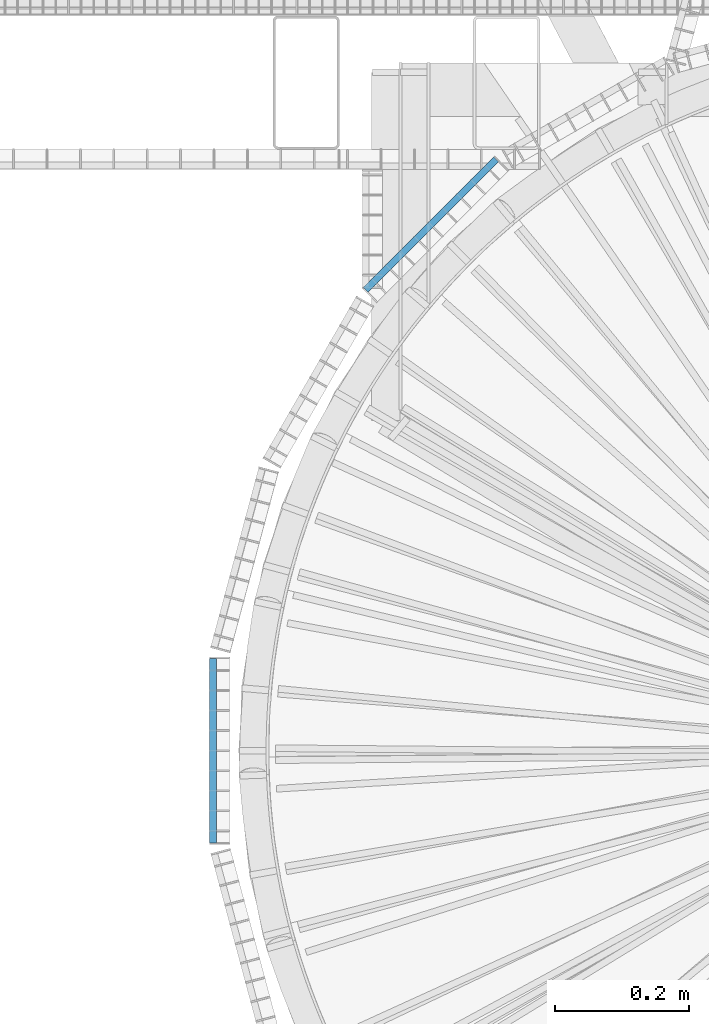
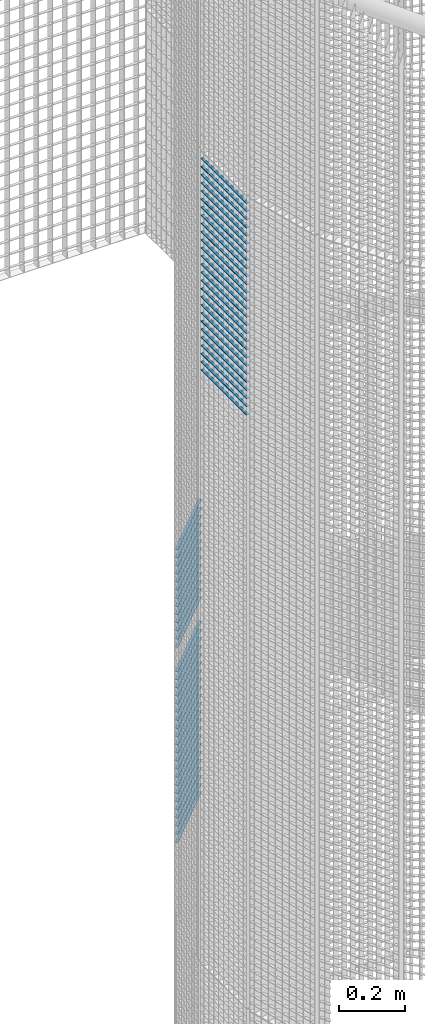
# One storey, part 204 of 1148: 62 beams, 2 elements without a shape of their own.
"""IFC2X3 building model written with IfcOpenShell, lengths in millimetres."""

from ifc_helpers import new_model, si_unit, frame, origin_with_axes, origin_2d_with_axis, place, context, subcontext, project, spatial, rectangle, extrude, material, type_object, element, aggregate, save


model = new_model("IFC2X3")

# Units and contexts
model_context = context("Model", 3, precision=1e-05, world=origin_with_axes())
body_context = subcontext(model_context, "Body", "Model", "MODEL_VIEW")
ifc_project = project(units=[si_unit("LENGTHUNIT", "METRE", prefix="MILLI"), si_unit("AREAUNIT", "SQUARE_METRE"), si_unit("VOLUMEUNIT", "CUBIC_METRE"), si_unit("MASSUNIT", "GRAM", prefix="KILO"), si_unit("TIMEUNIT", "SECOND"), si_unit("PLANEANGLEUNIT", "RADIAN"), si_unit("SOLIDANGLEUNIT", "STERADIAN"), si_unit("THERMODYNAMICTEMPERATUREUNIT", "DEGREE_CELSIUS"), si_unit("LUMINOUSINTENSITYUNIT", "LUMEN")], contexts=[model_context])

# Site, building, storey
site_placement = place(None, origin_with_axes())
site = spatial("IfcSite", under=ifc_project, at=site_placement, Name="Undefined", CompositionType="ELEMENT")
building_placement = place(site_placement, origin_with_axes())
building = spatial("IfcBuilding", under=site, at=building_placement, Name="Undefined", CompositionType="ELEMENT")
storey_placement = place(building_placement, origin_with_axes())
storey = spatial("IfcBuildingStorey", under=building, at=storey_placement, Name="Undefined", CompositionType="ELEMENT", Elevation=0.0)

# Assembly, beams
assembly_1_placement = place(storey_placement, origin_with_axes())
assembly_1 = element("IfcElementAssembly", 1, at=assembly_1_placement, inside=storey, Name="BORDURE", AssemblyPlace="NOTDEFINED", PredefinedType="NOTDEFINED")
ifc_material = material(Name="STEEL/S235JR")
beam_type = type_object("IfcBeamType", Name="PL2*10", PredefinedType="NOTDEFINED")
beam_1_placement = place(assembly_1_placement, frame((-689.771348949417, 884.927168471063, 3750.0), z_axis=(-0.707106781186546, 0.707106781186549, 0.0), x_axis=(-0.70710678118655, -0.707106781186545, 0.0)))
beam_1 = element("IfcBeam", 2, at=beam_1_placement, type_object=beam_type, material=ifc_material, Name="ENTRETOISE", context=body_context, shape_type="SweptSolid", body=[
    extrude(rectangle(XDim=2.0, YDim=10.0, at=origin_2d_with_axis()), frame((275.999999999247, 9.09494701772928e-13, 1.53210777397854e-14), z_axis=(-1.0, 0.0, 0.0), x_axis=(0.0, -1.0, 0.0)), (0.0, 0.0, 1.0), 276.0),
])
beam_2_placement = place(assembly_1_placement, frame((-689.771348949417, 884.927168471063, 3660.0), z_axis=(-0.707106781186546, 0.707106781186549, 0.0), x_axis=(-0.70710678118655, -0.707106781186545, 0.0)))
beam_2 = element("IfcBeam", 3, at=beam_2_placement, type_object=beam_type, material=ifc_material, Name="ENTRETOISE", context=body_context, shape_type="SweptSolid", body=[
    extrude(rectangle(XDim=2.0, YDim=10.0, at=origin_2d_with_axis()), frame((275.999999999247, 9.09494701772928e-13, 1.53210777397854e-14), z_axis=(-1.0, 0.0, 0.0), x_axis=(0.0, -1.0, 0.0)), (0.0, 0.0, 1.0), 276.0),
])
beam_3_placement = place(assembly_1_placement, frame((-689.771348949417, 884.927168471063, 3630.0), z_axis=(-0.707106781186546, 0.707106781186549, 0.0), x_axis=(-0.70710678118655, -0.707106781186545, 0.0)))
beam_3 = element("IfcBeam", 4, at=beam_3_placement, type_object=beam_type, material=ifc_material, Name="ENTRETOISE", context=body_context, shape_type="SweptSolid", body=[
    extrude(rectangle(XDim=2.0, YDim=10.0, at=origin_2d_with_axis()), frame((275.999999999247, 9.09494701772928e-13, 1.53210777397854e-14), z_axis=(-1.0, 0.0, 0.0), x_axis=(0.0, -1.0, 0.0)), (0.0, 0.0, 1.0), 276.0),
])
beam_4_placement = place(assembly_1_placement, frame((-689.771348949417, 884.927168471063, 3780.0), z_axis=(-0.707106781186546, 0.707106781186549, 0.0), x_axis=(-0.70710678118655, -0.707106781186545, 0.0)))
beam_4 = element("IfcBeam", 5, at=beam_4_placement, type_object=beam_type, material=ifc_material, Name="ENTRETOISE", context=body_context, shape_type="SweptSolid", body=[
    extrude(rectangle(XDim=2.0, YDim=10.0, at=origin_2d_with_axis()), frame((275.999999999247, 9.09494701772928e-13, 1.53210777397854e-14), z_axis=(-1.0, 0.0, 0.0), x_axis=(0.0, -1.0, 0.0)), (0.0, 0.0, 1.0), 276.0),
])
beam_5_placement = place(assembly_1_placement, frame((-689.771348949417, 884.927168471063, 3600.0), z_axis=(-0.707106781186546, 0.707106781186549, 0.0), x_axis=(-0.70710678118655, -0.707106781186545, 0.0)))
beam_5 = element("IfcBeam", 6, at=beam_5_placement, type_object=beam_type, material=ifc_material, Name="ENTRETOISE", context=body_context, shape_type="SweptSolid", body=[
    extrude(rectangle(XDim=2.0, YDim=10.0, at=origin_2d_with_axis()), frame((275.999999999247, 9.09494701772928e-13, 1.53210777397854e-14), z_axis=(-1.0, 0.0, 0.0), x_axis=(0.0, -1.0, 0.0)), (0.0, 0.0, 1.0), 276.0),
])
beam_6_placement = place(assembly_1_placement, frame((-689.771348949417, 884.927168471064, 3810.0), z_axis=(-0.707106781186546, 0.707106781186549, 0.0), x_axis=(-0.70710678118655, -0.707106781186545, 0.0)))
beam_6 = element("IfcBeam", 7, at=beam_6_placement, type_object=beam_type, material=ifc_material, Name="ENTRETOISE", context=body_context, shape_type="SweptSolid", body=[
    extrude(rectangle(XDim=2.0, YDim=10.0, at=origin_2d_with_axis()), frame((275.999999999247, 9.09494701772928e-13, 1.53210777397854e-14), z_axis=(-1.0, 0.0, 0.0), x_axis=(0.0, -1.0, 0.0)), (0.0, 0.0, 1.0), 276.0),
])
beam_7_placement = place(assembly_1_placement, frame((-689.771348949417, 884.927168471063, 3570.0), z_axis=(-0.707106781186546, 0.707106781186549, 0.0), x_axis=(-0.70710678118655, -0.707106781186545, 0.0)))
beam_7 = element("IfcBeam", 8, at=beam_7_placement, type_object=beam_type, material=ifc_material, Name="ENTRETOISE", context=body_context, shape_type="SweptSolid", body=[
    extrude(rectangle(XDim=2.0, YDim=10.0, at=origin_2d_with_axis()), frame((275.999999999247, 9.09494701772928e-13, 1.53210777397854e-14), z_axis=(-1.0, 0.0, 0.0), x_axis=(0.0, -1.0, 0.0)), (0.0, 0.0, 1.0), 276.0),
])
beam_8_placement = place(assembly_1_placement, frame((-689.771348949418, 884.927168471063, 3540.0), z_axis=(-0.707106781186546, 0.707106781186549, 0.0), x_axis=(-0.70710678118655, -0.707106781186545, 0.0)))
beam_8 = element("IfcBeam", 9, at=beam_8_placement, type_object=beam_type, material=ifc_material, Name="ENTRETOISE", context=body_context, shape_type="SweptSolid", body=[
    extrude(rectangle(XDim=2.0, YDim=10.0, at=origin_2d_with_axis()), frame((275.999999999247, 9.09494701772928e-13, 1.53210777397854e-14), z_axis=(-1.0, 0.0, 0.0), x_axis=(0.0, -1.0, 0.0)), (0.0, 0.0, 1.0), 276.0),
])
beam_9_placement = place(assembly_1_placement, frame((-689.771348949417, 884.927168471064, 3840.0), z_axis=(-0.707106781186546, 0.707106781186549, 0.0), x_axis=(-0.70710678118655, -0.707106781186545, 0.0)))
beam_9 = element("IfcBeam", 10, at=beam_9_placement, type_object=beam_type, material=ifc_material, Name="ENTRETOISE", context=body_context, shape_type="SweptSolid", body=[
    extrude(rectangle(XDim=2.0, YDim=10.0, at=origin_2d_with_axis()), frame((275.999999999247, 9.09494701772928e-13, 1.53210777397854e-14), z_axis=(-1.0, 0.0, 0.0), x_axis=(0.0, -1.0, 0.0)), (0.0, 0.0, 1.0), 276.0),
])
beam_10_placement = place(assembly_1_placement, frame((-689.771348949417, 884.927168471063, 3510.0), z_axis=(-0.707106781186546, 0.707106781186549, 0.0), x_axis=(-0.70710678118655, -0.707106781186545, 0.0)))
beam_10 = element("IfcBeam", 11, at=beam_10_placement, type_object=beam_type, material=ifc_material, Name="ENTRETOISE", context=body_context, shape_type="SweptSolid", body=[
    extrude(rectangle(XDim=2.0, YDim=10.0, at=origin_2d_with_axis()), frame((275.999999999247, 9.09494701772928e-13, 1.53210777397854e-14), z_axis=(-1.0, 0.0, 0.0), x_axis=(0.0, -1.0, 0.0)), (0.0, 0.0, 1.0), 276.0),
])
beam_11_placement = place(assembly_1_placement, frame((-689.771348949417, 884.927168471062, 3480.0), z_axis=(-0.707106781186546, 0.707106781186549, 0.0), x_axis=(-0.70710678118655, -0.707106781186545, 0.0)))
beam_11 = element("IfcBeam", 12, at=beam_11_placement, type_object=beam_type, material=ifc_material, Name="ENTRETOISE", context=body_context, shape_type="SweptSolid", body=[
    extrude(rectangle(XDim=2.0, YDim=10.0, at=origin_2d_with_axis()), frame((275.999999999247, 9.09494701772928e-13, 1.53210777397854e-14), z_axis=(-1.0, 0.0, 0.0), x_axis=(0.0, -1.0, 0.0)), (0.0, 0.0, 1.0), 276.0),
])
beam_12_placement = place(assembly_1_placement, frame((-689.771348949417, 884.927168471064, 3870.0), z_axis=(-0.707106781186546, 0.707106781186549, 0.0), x_axis=(-0.70710678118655, -0.707106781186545, 0.0)))
beam_12 = element("IfcBeam", 13, at=beam_12_placement, type_object=beam_type, material=ifc_material, Name="ENTRETOISE", context=body_context, shape_type="SweptSolid", body=[
    extrude(rectangle(XDim=2.0, YDim=10.0, at=origin_2d_with_axis()), frame((275.999999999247, 9.09494701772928e-13, 1.53210777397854e-14), z_axis=(-1.0, 0.0, 0.0), x_axis=(0.0, -1.0, 0.0)), (0.0, 0.0, 1.0), 276.0),
])
beam_13_placement = place(assembly_1_placement, frame((-689.771348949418, 884.927168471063, 3450.0), z_axis=(-0.707106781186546, 0.707106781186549, 0.0), x_axis=(-0.70710678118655, -0.707106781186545, 0.0)))
beam_13 = element("IfcBeam", 14, at=beam_13_placement, type_object=beam_type, material=ifc_material, Name="ENTRETOISE", context=body_context, shape_type="SweptSolid", body=[
    extrude(rectangle(XDim=2.0, YDim=10.0, at=origin_2d_with_axis()), frame((275.999999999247, 9.09494701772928e-13, 1.53210777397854e-14), z_axis=(-1.0, 0.0, 0.0), x_axis=(0.0, -1.0, 0.0)), (0.0, 0.0, 1.0), 276.0),
])
beam_14_placement = place(assembly_1_placement, frame((-689.771348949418, 884.927168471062, 3420.0), z_axis=(-0.707106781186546, 0.707106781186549, 0.0), x_axis=(-0.70710678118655, -0.707106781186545, 0.0)))
beam_14 = element("IfcBeam", 15, at=beam_14_placement, type_object=beam_type, material=ifc_material, Name="ENTRETOISE", context=body_context, shape_type="SweptSolid", body=[
    extrude(rectangle(XDim=2.0, YDim=10.0, at=origin_2d_with_axis()), frame((275.999999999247, 9.09494701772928e-13, 1.53210777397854e-14), z_axis=(-1.0, 0.0, 0.0), x_axis=(0.0, -1.0, 0.0)), (0.0, 0.0, 1.0), 276.0),
])
beam_15_placement = place(assembly_1_placement, frame((-689.771348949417, 884.927168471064, 3900.0), z_axis=(-0.707106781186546, 0.707106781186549, 0.0), x_axis=(-0.70710678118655, -0.707106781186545, 0.0)))
beam_15 = element("IfcBeam", 16, at=beam_15_placement, type_object=beam_type, material=ifc_material, Name="ENTRETOISE", context=body_context, shape_type="SweptSolid", body=[
    extrude(rectangle(XDim=2.0, YDim=10.0, at=origin_2d_with_axis()), frame((275.999999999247, 9.09494701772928e-13, 1.53210777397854e-14), z_axis=(-1.0, 0.0, 0.0), x_axis=(0.0, -1.0, 0.0)), (0.0, 0.0, 1.0), 276.0),
])
beam_16_placement = place(assembly_1_placement, frame((-689.771348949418, 884.927168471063, 3390.0), z_axis=(-0.707106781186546, 0.707106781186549, 0.0), x_axis=(-0.70710678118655, -0.707106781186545, 0.0)))
beam_16 = element("IfcBeam", 17, at=beam_16_placement, type_object=beam_type, material=ifc_material, Name="ENTRETOISE", context=body_context, shape_type="SweptSolid", body=[
    extrude(rectangle(XDim=2.0, YDim=10.0, at=origin_2d_with_axis()), frame((275.999999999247, 9.09494701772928e-13, 1.53210777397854e-14), z_axis=(-1.0, 0.0, 0.0), x_axis=(0.0, -1.0, 0.0)), (0.0, 0.0, 1.0), 276.0),
])
beam_17_placement = place(assembly_1_placement, frame((-689.771348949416, 884.927168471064, 3930.0), z_axis=(-0.707106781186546, 0.707106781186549, 0.0), x_axis=(-0.70710678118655, -0.707106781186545, 0.0)))
beam_17 = element("IfcBeam", 18, at=beam_17_placement, type_object=beam_type, material=ifc_material, Name="ENTRETOISE", context=body_context, shape_type="SweptSolid", body=[
    extrude(rectangle(XDim=2.0, YDim=10.0, at=origin_2d_with_axis()), frame((275.999999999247, 9.09494701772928e-13, 1.53210777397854e-14), z_axis=(-1.0, 0.0, 0.0), x_axis=(0.0, -1.0, 0.0)), (0.0, 0.0, 1.0), 276.0),
])
beam_18_placement = place(assembly_1_placement, frame((-689.771348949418, 884.927168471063, 3360.0), z_axis=(-0.707106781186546, 0.707106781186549, 0.0), x_axis=(-0.70710678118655, -0.707106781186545, 0.0)))
beam_18 = element("IfcBeam", 19, at=beam_18_placement, type_object=beam_type, material=ifc_material, Name="ENTRETOISE", context=body_context, shape_type="SweptSolid", body=[
    extrude(rectangle(XDim=2.0, YDim=10.0, at=origin_2d_with_axis()), frame((275.999999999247, 9.09494701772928e-13, 1.53210777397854e-14), z_axis=(-1.0, 0.0, 0.0), x_axis=(0.0, -1.0, 0.0)), (0.0, 0.0, 1.0), 276.0),
])
beam_19_placement = place(assembly_1_placement, frame((-689.771348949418, 884.927168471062, 3330.0), z_axis=(-0.707106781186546, 0.707106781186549, 0.0), x_axis=(-0.70710678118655, -0.707106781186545, 0.0)))
beam_19 = element("IfcBeam", 20, at=beam_19_placement, type_object=beam_type, material=ifc_material, Name="ENTRETOISE", context=body_context, shape_type="SweptSolid", body=[
    extrude(rectangle(XDim=2.0, YDim=10.0, at=origin_2d_with_axis()), frame((275.999999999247, 9.09494701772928e-13, 1.53210777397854e-14), z_axis=(-1.0, 0.0, 0.0), x_axis=(0.0, -1.0, 0.0)), (0.0, 0.0, 1.0), 276.0),
])
beam_20_placement = place(assembly_1_placement, frame((-689.771348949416, 884.927168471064, 3960.0), z_axis=(-0.707106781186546, 0.707106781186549, 0.0), x_axis=(-0.70710678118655, -0.707106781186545, 0.0)))
beam_20 = element("IfcBeam", 21, at=beam_20_placement, type_object=beam_type, material=ifc_material, Name="ENTRETOISE", context=body_context, shape_type="SweptSolid", body=[
    extrude(rectangle(XDim=2.0, YDim=10.0, at=origin_2d_with_axis()), frame((275.999999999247, 9.09494701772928e-13, 1.53210777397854e-14), z_axis=(-1.0, 0.0, 0.0), x_axis=(0.0, -1.0, 0.0)), (0.0, 0.0, 1.0), 276.0),
])
beam_21_placement = place(assembly_1_placement, frame((-689.771348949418, 884.927168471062, 3300.0), z_axis=(-0.707106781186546, 0.707106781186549, 0.0), x_axis=(-0.70710678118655, -0.707106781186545, 0.0)))
beam_21 = element("IfcBeam", 22, at=beam_21_placement, type_object=beam_type, material=ifc_material, Name="ENTRETOISE", context=body_context, shape_type="SweptSolid", body=[
    extrude(rectangle(XDim=2.0, YDim=10.0, at=origin_2d_with_axis()), frame((275.999999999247, 9.09494701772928e-13, 1.53210777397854e-14), z_axis=(-1.0, 0.0, 0.0), x_axis=(0.0, -1.0, 0.0)), (0.0, 0.0, 1.0), 276.0),
])
beam_22_placement = place(assembly_1_placement, frame((-689.771348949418, 884.927168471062, 3270.0), z_axis=(-0.707106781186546, 0.707106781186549, 0.0), x_axis=(-0.70710678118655, -0.707106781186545, 0.0)))
beam_22 = element("IfcBeam", 23, at=beam_22_placement, type_object=beam_type, material=ifc_material, Name="ENTRETOISE", context=body_context, shape_type="SweptSolid", body=[
    extrude(rectangle(XDim=2.0, YDim=10.0, at=origin_2d_with_axis()), frame((275.999999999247, 9.09494701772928e-13, 1.53210777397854e-14), z_axis=(-1.0, 0.0, 0.0), x_axis=(0.0, -1.0, 0.0)), (0.0, 0.0, 1.0), 276.0),
])
beam_23_placement = place(assembly_1_placement, frame((-689.771348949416, 884.927168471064, 3990.0), z_axis=(-0.707106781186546, 0.707106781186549, 0.0), x_axis=(-0.70710678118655, -0.707106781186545, 0.0)))
beam_23 = element("IfcBeam", 24, at=beam_23_placement, type_object=beam_type, material=ifc_material, Name="ENTRETOISE", context=body_context, shape_type="SweptSolid", body=[
    extrude(rectangle(XDim=2.0, YDim=10.0, at=origin_2d_with_axis()), frame((275.999999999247, 9.09494701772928e-13, 1.53210777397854e-14), z_axis=(-1.0, 0.0, 0.0), x_axis=(0.0, -1.0, 0.0)), (0.0, 0.0, 1.0), 276.0),
])
beam_24_placement = place(assembly_1_placement, frame((-689.771348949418, 884.927168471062, 3240.0), z_axis=(-0.707106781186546, 0.707106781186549, 0.0), x_axis=(-0.70710678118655, -0.707106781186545, 0.0)))
beam_24 = element("IfcBeam", 25, at=beam_24_placement, type_object=beam_type, material=ifc_material, Name="ENTRETOISE", context=body_context, shape_type="SweptSolid", body=[
    extrude(rectangle(XDim=2.0, YDim=10.0, at=origin_2d_with_axis()), frame((275.999999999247, 9.09494701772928e-13, 1.53210777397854e-14), z_axis=(-1.0, 0.0, 0.0), x_axis=(0.0, -1.0, 0.0)), (0.0, 0.0, 1.0), 276.0),
])
beam_25_placement = place(assembly_1_placement, frame((-689.771348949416, 884.927168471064, 4020.0), z_axis=(-0.707106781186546, 0.707106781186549, 0.0), x_axis=(-0.70710678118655, -0.707106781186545, 0.0)))
beam_25 = element("IfcBeam", 26, at=beam_25_placement, type_object=beam_type, material=ifc_material, Name="ENTRETOISE", context=body_context, shape_type="SweptSolid", body=[
    extrude(rectangle(XDim=2.0, YDim=10.0, at=origin_2d_with_axis()), frame((275.999999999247, 9.09494701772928e-13, 1.53210777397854e-14), z_axis=(-1.0, 0.0, 0.0), x_axis=(0.0, -1.0, 0.0)), (0.0, 0.0, 1.0), 276.0),
])
beam_26_placement = place(assembly_1_placement, frame((-689.771348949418, 884.927168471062, 3210.0), z_axis=(-0.707106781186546, 0.707106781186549, 0.0), x_axis=(-0.70710678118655, -0.707106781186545, 0.0)))
beam_26 = element("IfcBeam", 27, at=beam_26_placement, type_object=beam_type, material=ifc_material, Name="ENTRETOISE", context=body_context, shape_type="SweptSolid", body=[
    extrude(rectangle(XDim=2.0, YDim=10.0, at=origin_2d_with_axis()), frame((275.999999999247, 9.09494701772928e-13, 1.53210777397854e-14), z_axis=(-1.0, 0.0, 0.0), x_axis=(0.0, -1.0, 0.0)), (0.0, 0.0, 1.0), 276.0),
])
beam_27_placement = place(assembly_1_placement, frame((-689.771348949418, 884.927168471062, 3180.0), z_axis=(-0.707106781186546, 0.707106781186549, 0.0), x_axis=(-0.70710678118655, -0.707106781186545, 0.0)))
beam_27 = element("IfcBeam", 28, at=beam_27_placement, type_object=beam_type, material=ifc_material, Name="ENTRETOISE", context=body_context, shape_type="SweptSolid", body=[
    extrude(rectangle(XDim=2.0, YDim=10.0, at=origin_2d_with_axis()), frame((275.999999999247, 9.09494701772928e-13, 1.53210777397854e-14), z_axis=(-1.0, 0.0, 0.0), x_axis=(0.0, -1.0, 0.0)), (0.0, 0.0, 1.0), 276.0),
])
beam_28_placement = place(assembly_1_placement, frame((-689.771348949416, 884.927168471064, 4050.0), z_axis=(-0.707106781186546, 0.707106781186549, 0.0), x_axis=(-0.70710678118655, -0.707106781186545, 0.0)))
beam_28 = element("IfcBeam", 29, at=beam_28_placement, type_object=beam_type, material=ifc_material, Name="ENTRETOISE", context=body_context, shape_type="SweptSolid", body=[
    extrude(rectangle(XDim=2.0, YDim=10.0, at=origin_2d_with_axis()), frame((275.999999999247, 9.09494701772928e-13, 1.53210777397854e-14), z_axis=(-1.0, 0.0, 0.0), x_axis=(0.0, -1.0, 0.0)), (0.0, 0.0, 1.0), 276.0),
])
beam_29_placement = place(assembly_1_placement, frame((-689.771348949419, 884.927168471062, 3150.0), z_axis=(-0.707106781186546, 0.707106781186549, 0.0), x_axis=(-0.70710678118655, -0.707106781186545, 0.0)))
beam_29 = element("IfcBeam", 30, at=beam_29_placement, type_object=beam_type, material=ifc_material, Name="ENTRETOISE", context=body_context, shape_type="SweptSolid", body=[
    extrude(rectangle(XDim=2.0, YDim=10.0, at=origin_2d_with_axis()), frame((275.999999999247, 9.09494701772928e-13, 1.53210777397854e-14), z_axis=(-1.0, 0.0, 0.0), x_axis=(0.0, -1.0, 0.0)), (0.0, 0.0, 1.0), 276.0),
])
beam_30_placement = place(assembly_1_placement, frame((-689.771348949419, 884.927168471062, 3120.0), z_axis=(-0.707106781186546, 0.707106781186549, 0.0), x_axis=(-0.70710678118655, -0.707106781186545, 0.0)))
beam_30 = element("IfcBeam", 31, at=beam_30_placement, type_object=beam_type, material=ifc_material, Name="ENTRETOISE", context=body_context, shape_type="SweptSolid", body=[
    extrude(rectangle(XDim=2.0, YDim=10.0, at=origin_2d_with_axis()), frame((275.999999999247, 9.09494701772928e-13, 1.53210777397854e-14), z_axis=(-1.0, 0.0, 0.0), x_axis=(0.0, -1.0, 0.0)), (0.0, 0.0, 1.0), 276.0),
])
beam_31_placement = place(assembly_1_placement, frame((-689.771348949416, 884.927168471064, 4080.0), z_axis=(-0.707106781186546, 0.707106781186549, 0.0), x_axis=(-0.70710678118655, -0.707106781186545, 0.0)))
beam_31 = element("IfcBeam", 32, at=beam_31_placement, type_object=beam_type, material=ifc_material, Name="ENTRETOISE", context=body_context, shape_type="SweptSolid", body=[
    extrude(rectangle(XDim=2.0, YDim=10.0, at=origin_2d_with_axis()), frame((275.999999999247, 9.09494701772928e-13, 1.53210777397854e-14), z_axis=(-1.0, 0.0, 0.0), x_axis=(0.0, -1.0, 0.0)), (0.0, 0.0, 1.0), 276.0),
])
beam_32_placement = place(assembly_1_placement, frame((-689.771348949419, 884.927168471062, 3090.0), z_axis=(-0.707106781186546, 0.707106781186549, 0.0), x_axis=(-0.70710678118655, -0.707106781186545, 0.0)))
beam_32 = element("IfcBeam", 33, at=beam_32_placement, type_object=beam_type, material=ifc_material, Name="ENTRETOISE", context=body_context, shape_type="SweptSolid", body=[
    extrude(rectangle(XDim=2.0, YDim=10.0, at=origin_2d_with_axis()), frame((275.999999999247, 9.09494701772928e-13, 1.53210777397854e-14), z_axis=(-1.0, 0.0, 0.0), x_axis=(0.0, -1.0, 0.0)), (0.0, 0.0, 1.0), 276.0),
])
beam_33_placement = place(assembly_1_placement, frame((-689.771348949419, 884.927168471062, 3060.0), z_axis=(-0.707106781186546, 0.707106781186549, 0.0), x_axis=(-0.70710678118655, -0.707106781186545, 0.0)))
beam_33 = element("IfcBeam", 34, at=beam_33_placement, type_object=beam_type, material=ifc_material, Name="ENTRETOISE", context=body_context, shape_type="SweptSolid", body=[
    extrude(rectangle(XDim=2.0, YDim=10.0, at=origin_2d_with_axis()), frame((275.999999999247, 9.09494701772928e-13, 1.53210777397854e-14), z_axis=(-1.0, 0.0, 0.0), x_axis=(0.0, -1.0, 0.0)), (0.0, 0.0, 1.0), 276.0),
])
beam_34_placement = place(assembly_1_placement, frame((-689.771348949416, 884.927168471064, 4110.0), z_axis=(-0.707106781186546, 0.707106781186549, 0.0), x_axis=(-0.70710678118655, -0.707106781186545, 0.0)))
beam_34 = element("IfcBeam", 35, at=beam_34_placement, type_object=beam_type, material=ifc_material, Name="ENTRETOISE", context=body_context, shape_type="SweptSolid", body=[
    extrude(rectangle(XDim=2.0, YDim=10.0, at=origin_2d_with_axis()), frame((275.999999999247, 9.09494701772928e-13, 1.53210777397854e-14), z_axis=(-1.0, 0.0, 0.0), x_axis=(0.0, -1.0, 0.0)), (0.0, 0.0, 1.0), 276.0),
])
beam_35_placement = place(assembly_1_placement, frame((-689.771348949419, 884.92716847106, 3030.0), z_axis=(-0.707106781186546, 0.707106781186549, 0.0), x_axis=(-0.70710678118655, -0.707106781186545, 0.0)))
beam_35 = element("IfcBeam", 36, at=beam_35_placement, type_object=beam_type, material=ifc_material, Name="ENTRETOISE", context=body_context, shape_type="SweptSolid", body=[
    extrude(rectangle(XDim=2.0, YDim=10.0, at=origin_2d_with_axis()), frame((275.999999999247, 9.09494701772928e-13, 1.53210777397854e-14), z_axis=(-1.0, 0.0, 0.0), x_axis=(0.0, -1.0, 0.0)), (0.0, 0.0, 1.0), 276.0),
])
aggregate(assembly_1, [beam_1, beam_2, beam_3, beam_4, beam_5, beam_6, beam_7, beam_8, beam_9, beam_10, beam_11, beam_12, beam_13, beam_14, beam_15, beam_16, beam_17, beam_18, beam_19, beam_20, beam_21, beam_22, beam_23, beam_24, beam_25, beam_26, beam_27, beam_28, beam_29, beam_30, beam_31, beam_32, beam_33, beam_34, beam_35])

assembly_2_placement = place(storey_placement, origin_with_axes())
assembly_2 = element("IfcElementAssembly", 37, at=assembly_2_placement, inside=storey, Name="BORDURE", AssemblyPlace="NOTDEFINED", PredefinedType="NOTDEFINED")
beam_36_placement = place(assembly_2_placement, frame((-1113.47999999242, 137.996003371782, 5970.0), z_axis=(-1.0, 0.0, 0.0), x_axis=(0.0, -1.0, 0.0)))
beam_36 = element("IfcBeam", 38, at=beam_36_placement, type_object=beam_type, material=ifc_material, Name="ENTRETOISE", context=body_context, shape_type="SweptSolid", body=[
    extrude(rectangle(XDim=2.0, YDim=10.0, at=origin_2d_with_axis()), frame((275.999999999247, 9.09494701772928e-13, 1.53210777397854e-14), z_axis=(-1.0, 0.0, 0.0), x_axis=(0.0, -1.0, 0.0)), (0.0, 0.0, 1.0), 276.0),
])
beam_37_placement = place(assembly_2_placement, frame((-1113.47999999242, 137.996003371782, 5940.0), z_axis=(-1.0, 0.0, 0.0), x_axis=(0.0, -1.0, 0.0)))
beam_37 = element("IfcBeam", 39, at=beam_37_placement, type_object=beam_type, material=ifc_material, Name="ENTRETOISE", context=body_context, shape_type="SweptSolid", body=[
    extrude(rectangle(XDim=2.0, YDim=10.0, at=origin_2d_with_axis()), frame((275.999999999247, 9.09494701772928e-13, 1.53210777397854e-14), z_axis=(-1.0, 0.0, 0.0), x_axis=(0.0, -1.0, 0.0)), (0.0, 0.0, 1.0), 276.0),
])
beam_38_placement = place(assembly_2_placement, frame((-1113.47999999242, 137.996003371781, 5910.0), z_axis=(-1.0, 0.0, 0.0), x_axis=(0.0, -1.0, 0.0)))
beam_38 = element("IfcBeam", 40, at=beam_38_placement, type_object=beam_type, material=ifc_material, Name="ENTRETOISE", context=body_context, shape_type="SweptSolid", body=[
    extrude(rectangle(XDim=2.0, YDim=10.0, at=origin_2d_with_axis()), frame((275.999999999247, 9.09494701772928e-13, 1.53210777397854e-14), z_axis=(-1.0, 0.0, 0.0), x_axis=(0.0, -1.0, 0.0)), (0.0, 0.0, 1.0), 276.0),
])
beam_39_placement = place(assembly_2_placement, frame((-1113.47999999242, 137.996003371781, 5880.0), z_axis=(-1.0, 0.0, 0.0), x_axis=(0.0, -1.0, 0.0)))
beam_39 = element("IfcBeam", 41, at=beam_39_placement, type_object=beam_type, material=ifc_material, Name="ENTRETOISE", context=body_context, shape_type="SweptSolid", body=[
    extrude(rectangle(XDim=2.0, YDim=10.0, at=origin_2d_with_axis()), frame((275.999999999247, 9.09494701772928e-13, 1.53210777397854e-14), z_axis=(-1.0, 0.0, 0.0), x_axis=(0.0, -1.0, 0.0)), (0.0, 0.0, 1.0), 276.0),
])
beam_40_placement = place(assembly_2_placement, frame((-1113.47999999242, 137.996003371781, 5850.0), z_axis=(-1.0, 0.0, 0.0), x_axis=(0.0, -1.0, 0.0)))
beam_40 = element("IfcBeam", 42, at=beam_40_placement, type_object=beam_type, material=ifc_material, Name="ENTRETOISE", context=body_context, shape_type="SweptSolid", body=[
    extrude(rectangle(XDim=2.0, YDim=10.0, at=origin_2d_with_axis()), frame((275.999999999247, 9.09494701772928e-13, 1.53210777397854e-14), z_axis=(-1.0, 0.0, 0.0), x_axis=(0.0, -1.0, 0.0)), (0.0, 0.0, 1.0), 276.0),
])
beam_41_placement = place(assembly_2_placement, frame((-1113.47999999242, 137.996003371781, 5820.0), z_axis=(-1.0, 0.0, 0.0), x_axis=(0.0, -1.0, 0.0)))
beam_41 = element("IfcBeam", 43, at=beam_41_placement, type_object=beam_type, material=ifc_material, Name="ENTRETOISE", context=body_context, shape_type="SweptSolid", body=[
    extrude(rectangle(XDim=2.0, YDim=10.0, at=origin_2d_with_axis()), frame((275.999999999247, 9.09494701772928e-13, 1.53210777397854e-14), z_axis=(-1.0, 0.0, 0.0), x_axis=(0.0, -1.0, 0.0)), (0.0, 0.0, 1.0), 276.0),
])
beam_42_placement = place(assembly_2_placement, frame((-1113.47999999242, 137.996003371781, 5790.0), z_axis=(-1.0, 0.0, 0.0), x_axis=(0.0, -1.0, 0.0)))
beam_42 = element("IfcBeam", 44, at=beam_42_placement, type_object=beam_type, material=ifc_material, Name="ENTRETOISE", context=body_context, shape_type="SweptSolid", body=[
    extrude(rectangle(XDim=2.0, YDim=10.0, at=origin_2d_with_axis()), frame((275.999999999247, 9.09494701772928e-13, 1.53210777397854e-14), z_axis=(-1.0, 0.0, 0.0), x_axis=(0.0, -1.0, 0.0)), (0.0, 0.0, 1.0), 276.0),
])
beam_43_placement = place(assembly_2_placement, frame((-1113.47999999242, 137.996003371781, 5760.0), z_axis=(-1.0, 0.0, 0.0), x_axis=(0.0, -1.0, 0.0)))
beam_43 = element("IfcBeam", 45, at=beam_43_placement, type_object=beam_type, material=ifc_material, Name="ENTRETOISE", context=body_context, shape_type="SweptSolid", body=[
    extrude(rectangle(XDim=2.0, YDim=10.0, at=origin_2d_with_axis()), frame((275.999999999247, 9.09494701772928e-13, 1.53210777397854e-14), z_axis=(-1.0, 0.0, 0.0), x_axis=(0.0, -1.0, 0.0)), (0.0, 0.0, 1.0), 276.0),
])
beam_44_placement = place(assembly_2_placement, frame((-1113.47999999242, 137.996003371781, 5730.0), z_axis=(-1.0, 0.0, 0.0), x_axis=(0.0, -1.0, 0.0)))
beam_44 = element("IfcBeam", 46, at=beam_44_placement, type_object=beam_type, material=ifc_material, Name="ENTRETOISE", context=body_context, shape_type="SweptSolid", body=[
    extrude(rectangle(XDim=2.0, YDim=10.0, at=origin_2d_with_axis()), frame((275.999999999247, 9.09494701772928e-13, 1.53210777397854e-14), z_axis=(-1.0, 0.0, 0.0), x_axis=(0.0, -1.0, 0.0)), (0.0, 0.0, 1.0), 276.0),
])
beam_45_placement = place(assembly_2_placement, frame((-1113.47999999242, 137.996003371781, 5700.0), z_axis=(-1.0, 0.0, 0.0), x_axis=(0.0, -1.0, 0.0)))
beam_45 = element("IfcBeam", 47, at=beam_45_placement, type_object=beam_type, material=ifc_material, Name="ENTRETOISE", context=body_context, shape_type="SweptSolid", body=[
    extrude(rectangle(XDim=2.0, YDim=10.0, at=origin_2d_with_axis()), frame((275.999999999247, 9.09494701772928e-13, 1.53210777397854e-14), z_axis=(-1.0, 0.0, 0.0), x_axis=(0.0, -1.0, 0.0)), (0.0, 0.0, 1.0), 276.0),
])
beam_46_placement = place(assembly_2_placement, frame((-1113.47999999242, 137.996003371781, 5670.0), z_axis=(-1.0, 0.0, 0.0), x_axis=(0.0, -1.0, 0.0)))
beam_46 = element("IfcBeam", 48, at=beam_46_placement, type_object=beam_type, material=ifc_material, Name="ENTRETOISE", context=body_context, shape_type="SweptSolid", body=[
    extrude(rectangle(XDim=2.0, YDim=10.0, at=origin_2d_with_axis()), frame((275.999999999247, 9.09494701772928e-13, 1.53210777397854e-14), z_axis=(-1.0, 0.0, 0.0), x_axis=(0.0, -1.0, 0.0)), (0.0, 0.0, 1.0), 276.0),
])
beam_47_placement = place(assembly_2_placement, frame((-1113.47999999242, 137.99600337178, 5640.0), z_axis=(-1.0, 0.0, 0.0), x_axis=(0.0, -1.0, 0.0)))
beam_47 = element("IfcBeam", 49, at=beam_47_placement, type_object=beam_type, material=ifc_material, Name="ENTRETOISE", context=body_context, shape_type="SweptSolid", body=[
    extrude(rectangle(XDim=2.0, YDim=10.0, at=origin_2d_with_axis()), frame((275.999999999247, 9.09494701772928e-13, 1.53210777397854e-14), z_axis=(-1.0, 0.0, 0.0), x_axis=(0.0, -1.0, 0.0)), (0.0, 0.0, 1.0), 276.0),
])
beam_48_placement = place(assembly_2_placement, frame((-1113.47999999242, 137.99600337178, 5610.0), z_axis=(-1.0, 0.0, 0.0), x_axis=(0.0, -1.0, 0.0)))
beam_48 = element("IfcBeam", 50, at=beam_48_placement, type_object=beam_type, material=ifc_material, Name="ENTRETOISE", context=body_context, shape_type="SweptSolid", body=[
    extrude(rectangle(XDim=2.0, YDim=10.0, at=origin_2d_with_axis()), frame((275.999999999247, 9.09494701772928e-13, 1.53210777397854e-14), z_axis=(-1.0, 0.0, 0.0), x_axis=(0.0, -1.0, 0.0)), (0.0, 0.0, 1.0), 276.0),
])
beam_49_placement = place(assembly_2_placement, frame((-1113.47999999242, 137.99600337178, 5580.0), z_axis=(-1.0, 0.0, 0.0), x_axis=(0.0, -1.0, 0.0)))
beam_49 = element("IfcBeam", 51, at=beam_49_placement, type_object=beam_type, material=ifc_material, Name="ENTRETOISE", context=body_context, shape_type="SweptSolid", body=[
    extrude(rectangle(XDim=2.0, YDim=10.0, at=origin_2d_with_axis()), frame((275.999999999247, 9.09494701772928e-13, 1.53210777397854e-14), z_axis=(-1.0, 0.0, 0.0), x_axis=(0.0, -1.0, 0.0)), (0.0, 0.0, 1.0), 276.0),
])
beam_50_placement = place(assembly_2_placement, frame((-1113.47999999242, 137.99600337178, 5550.0), z_axis=(-1.0, 0.0, 0.0), x_axis=(0.0, -1.0, 0.0)))
beam_50 = element("IfcBeam", 52, at=beam_50_placement, type_object=beam_type, material=ifc_material, Name="ENTRETOISE", context=body_context, shape_type="SweptSolid", body=[
    extrude(rectangle(XDim=2.0, YDim=10.0, at=origin_2d_with_axis()), frame((275.999999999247, 9.09494701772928e-13, 1.53210777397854e-14), z_axis=(-1.0, 0.0, 0.0), x_axis=(0.0, -1.0, 0.0)), (0.0, 0.0, 1.0), 276.0),
])
beam_51_placement = place(assembly_2_placement, frame((-1113.47999999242, 137.99600337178, 5520.0), z_axis=(-1.0, 0.0, 0.0), x_axis=(0.0, -1.0, 0.0)))
beam_51 = element("IfcBeam", 53, at=beam_51_placement, type_object=beam_type, material=ifc_material, Name="ENTRETOISE", context=body_context, shape_type="SweptSolid", body=[
    extrude(rectangle(XDim=2.0, YDim=10.0, at=origin_2d_with_axis()), frame((275.999999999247, 9.09494701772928e-13, 1.53210777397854e-14), z_axis=(-1.0, 0.0, 0.0), x_axis=(0.0, -1.0, 0.0)), (0.0, 0.0, 1.0), 276.0),
])
beam_52_placement = place(assembly_2_placement, frame((-1113.47999999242, 137.99600337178, 5490.0), z_axis=(-1.0, 0.0, 0.0), x_axis=(0.0, -1.0, 0.0)))
beam_52 = element("IfcBeam", 54, at=beam_52_placement, type_object=beam_type, material=ifc_material, Name="ENTRETOISE", context=body_context, shape_type="SweptSolid", body=[
    extrude(rectangle(XDim=2.0, YDim=10.0, at=origin_2d_with_axis()), frame((275.999999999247, 9.09494701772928e-13, 1.53210777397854e-14), z_axis=(-1.0, 0.0, 0.0), x_axis=(0.0, -1.0, 0.0)), (0.0, 0.0, 1.0), 276.0),
])
beam_53_placement = place(assembly_2_placement, frame((-1113.47999999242, 137.99600337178, 5460.0), z_axis=(-1.0, 0.0, 0.0), x_axis=(0.0, -1.0, 0.0)))
beam_53 = element("IfcBeam", 55, at=beam_53_placement, type_object=beam_type, material=ifc_material, Name="ENTRETOISE", context=body_context, shape_type="SweptSolid", body=[
    extrude(rectangle(XDim=2.0, YDim=10.0, at=origin_2d_with_axis()), frame((275.999999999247, 9.09494701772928e-13, 1.53210777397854e-14), z_axis=(-1.0, 0.0, 0.0), x_axis=(0.0, -1.0, 0.0)), (0.0, 0.0, 1.0), 276.0),
])
beam_54_placement = place(assembly_2_placement, frame((-1113.47999999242, 137.99600337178, 5430.0), z_axis=(-1.0, 0.0, 0.0), x_axis=(0.0, -1.0, 0.0)))
beam_54 = element("IfcBeam", 56, at=beam_54_placement, type_object=beam_type, material=ifc_material, Name="ENTRETOISE", context=body_context, shape_type="SweptSolid", body=[
    extrude(rectangle(XDim=2.0, YDim=10.0, at=origin_2d_with_axis()), frame((275.999999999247, 9.09494701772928e-13, 1.53210777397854e-14), z_axis=(-1.0, 0.0, 0.0), x_axis=(0.0, -1.0, 0.0)), (0.0, 0.0, 1.0), 276.0),
])
beam_55_placement = place(assembly_2_placement, frame((-1113.47999999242, 137.99600337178, 5400.0), z_axis=(-1.0, 0.0, 0.0), x_axis=(0.0, -1.0, 0.0)))
beam_55 = element("IfcBeam", 57, at=beam_55_placement, type_object=beam_type, material=ifc_material, Name="ENTRETOISE", context=body_context, shape_type="SweptSolid", body=[
    extrude(rectangle(XDim=2.0, YDim=10.0, at=origin_2d_with_axis()), frame((275.999999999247, 9.09494701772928e-13, 1.53210777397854e-14), z_axis=(-1.0, 0.0, 0.0), x_axis=(0.0, -1.0, 0.0)), (0.0, 0.0, 1.0), 276.0),
])
beam_56_placement = place(assembly_2_placement, frame((-1113.47999999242, 137.996003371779, 5370.0), z_axis=(-1.0, 0.0, 0.0), x_axis=(0.0, -1.0, 0.0)))
beam_56 = element("IfcBeam", 58, at=beam_56_placement, type_object=beam_type, material=ifc_material, Name="ENTRETOISE", context=body_context, shape_type="SweptSolid", body=[
    extrude(rectangle(XDim=2.0, YDim=10.0, at=origin_2d_with_axis()), frame((275.999999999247, 9.09494701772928e-13, 1.53210777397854e-14), z_axis=(-1.0, 0.0, 0.0), x_axis=(0.0, -1.0, 0.0)), (0.0, 0.0, 1.0), 276.0),
])
beam_57_placement = place(assembly_2_placement, frame((-1113.47999999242, 137.996003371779, 5340.0), z_axis=(-1.0, 0.0, 0.0), x_axis=(0.0, -1.0, 0.0)))
beam_57 = element("IfcBeam", 59, at=beam_57_placement, type_object=beam_type, material=ifc_material, Name="ENTRETOISE", context=body_context, shape_type="SweptSolid", body=[
    extrude(rectangle(XDim=2.0, YDim=10.0, at=origin_2d_with_axis()), frame((275.999999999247, 9.09494701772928e-13, 1.53210777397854e-14), z_axis=(-1.0, 0.0, 0.0), x_axis=(0.0, -1.0, 0.0)), (0.0, 0.0, 1.0), 276.0),
])
beam_58_placement = place(assembly_2_placement, frame((-1113.47999999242, 137.996003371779, 5310.0), z_axis=(-1.0, 0.0, 0.0), x_axis=(0.0, -1.0, 0.0)))
beam_58 = element("IfcBeam", 60, at=beam_58_placement, type_object=beam_type, material=ifc_material, Name="ENTRETOISE", context=body_context, shape_type="SweptSolid", body=[
    extrude(rectangle(XDim=2.0, YDim=10.0, at=origin_2d_with_axis()), frame((275.999999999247, 9.09494701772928e-13, 1.53210777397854e-14), z_axis=(-1.0, 0.0, 0.0), x_axis=(0.0, -1.0, 0.0)), (0.0, 0.0, 1.0), 276.0),
])
beam_59_placement = place(assembly_2_placement, frame((-1113.47999999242, 137.996003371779, 5280.0), z_axis=(-1.0, 0.0, 0.0), x_axis=(0.0, -1.0, 0.0)))
beam_59 = element("IfcBeam", 61, at=beam_59_placement, type_object=beam_type, material=ifc_material, Name="ENTRETOISE", context=body_context, shape_type="SweptSolid", body=[
    extrude(rectangle(XDim=2.0, YDim=10.0, at=origin_2d_with_axis()), frame((275.999999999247, 9.09494701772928e-13, 1.53210777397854e-14), z_axis=(-1.0, 0.0, 0.0), x_axis=(0.0, -1.0, 0.0)), (0.0, 0.0, 1.0), 276.0),
])
beam_60_placement = place(assembly_2_placement, frame((-1113.47999999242, 137.996003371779, 5250.0), z_axis=(-1.0, 0.0, 0.0), x_axis=(0.0, -1.0, 0.0)))
beam_60 = element("IfcBeam", 62, at=beam_60_placement, type_object=beam_type, material=ifc_material, Name="ENTRETOISE", context=body_context, shape_type="SweptSolid", body=[
    extrude(rectangle(XDim=2.0, YDim=10.0, at=origin_2d_with_axis()), frame((275.999999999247, 9.09494701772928e-13, 1.53210777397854e-14), z_axis=(-1.0, 0.0, 0.0), x_axis=(0.0, -1.0, 0.0)), (0.0, 0.0, 1.0), 276.0),
])
beam_61_placement = place(assembly_2_placement, frame((-1113.47999999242, 137.996003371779, 5220.0), z_axis=(-1.0, 0.0, 0.0), x_axis=(0.0, -1.0, 0.0)))
beam_61 = element("IfcBeam", 63, at=beam_61_placement, type_object=beam_type, material=ifc_material, Name="ENTRETOISE", context=body_context, shape_type="SweptSolid", body=[
    extrude(rectangle(XDim=2.0, YDim=10.0, at=origin_2d_with_axis()), frame((275.999999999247, 9.09494701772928e-13, 1.53210777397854e-14), z_axis=(-1.0, 0.0, 0.0), x_axis=(0.0, -1.0, 0.0)), (0.0, 0.0, 1.0), 276.0),
])
beam_62_placement = place(assembly_2_placement, frame((-1113.47999999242, 137.996003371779, 5190.0), z_axis=(-1.0, 0.0, 0.0), x_axis=(0.0, -1.0, 0.0)))
beam_62 = element("IfcBeam", 64, at=beam_62_placement, type_object=beam_type, material=ifc_material, Name="ENTRETOISE", context=body_context, shape_type="SweptSolid", body=[
    extrude(rectangle(XDim=2.0, YDim=10.0, at=origin_2d_with_axis()), frame((275.999999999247, 9.09494701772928e-13, 1.53210777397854e-14), z_axis=(-1.0, 0.0, 0.0), x_axis=(0.0, -1.0, 0.0)), (0.0, 0.0, 1.0), 276.0),
])
aggregate(assembly_2, [beam_36, beam_37, beam_38, beam_39, beam_40, beam_41, beam_42, beam_43, beam_44, beam_45, beam_46, beam_47, beam_48, beam_49, beam_50, beam_51, beam_52, beam_53, beam_54, beam_55, beam_56, beam_57, beam_58, beam_59, beam_60, beam_61, beam_62])

save(model, "model.ifc")
